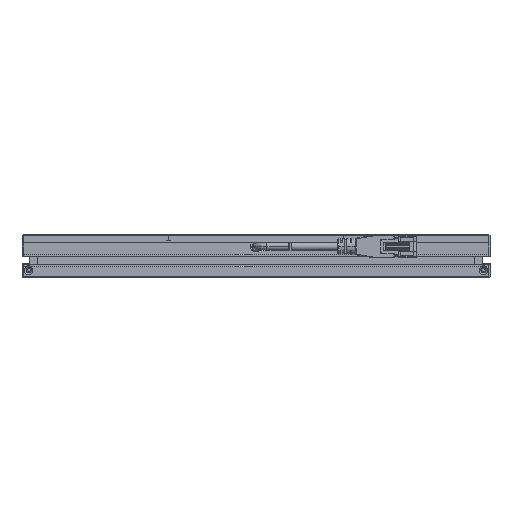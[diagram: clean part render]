
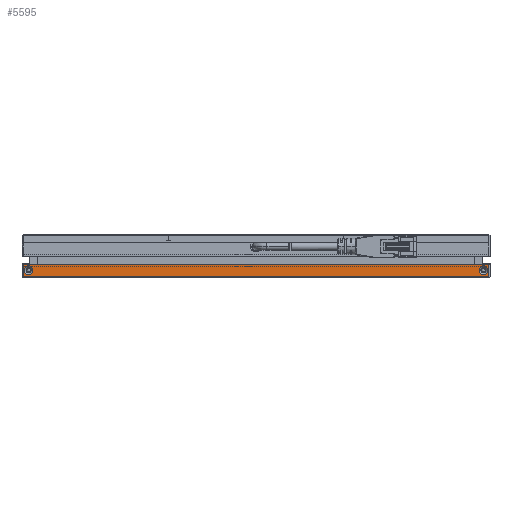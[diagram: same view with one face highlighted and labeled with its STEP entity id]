
A CAD part, left-side view. The second image highlights one B-rep face of the part: STEP entity #5595.
In plain terms, the highlighted planar face has unit normal (-1, 0, 0).
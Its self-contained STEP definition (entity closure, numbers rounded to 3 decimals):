
#243 = DIRECTION ( 'NONE',  ( 0., -1., 0. ) ) ;
#260 = CARTESIAN_POINT ( 'NONE',  ( -157., -106.5, -15.5 ) ) ;
#286 = DIRECTION ( 'NONE',  ( 0., 0., -1. ) ) ;
#462 = VERTEX_POINT ( 'NONE', #3304 ) ;
#466 = VERTEX_POINT ( 'NONE', #477 ) ;
#477 = CARTESIAN_POINT ( 'NONE',  ( -157., 106.5, -9.85 ) ) ;
#873 = ORIENTED_EDGE ( 'NONE', *, *, #5772, .T. ) ;
#894 = VECTOR ( 'NONE', #8410, 1000. ) ;
#997 = CARTESIAN_POINT ( 'NONE',  ( -157., -104., -12.5 ) ) ;
#1001 = VECTOR ( 'NONE', #243, 1000. ) ;
#1160 = CARTESIAN_POINT ( 'NONE',  ( -157., 104., -10.5 ) ) ;
#1371 = VECTOR ( 'NONE', #2449, 1000. ) ;
#1830 = VERTEX_POINT ( 'NONE', #8827 ) ;
#1846 = DIRECTION ( 'NONE',  ( 1., 0., 0. ) ) ;
#1938 = ORIENTED_EDGE ( 'NONE', *, *, #4474, .T. ) ;
#2001 = CARTESIAN_POINT ( 'NONE',  ( -157., -104., -10.5 ) ) ;
#2030 = CARTESIAN_POINT ( 'NONE',  ( -157., 104., -12.5 ) ) ;
#2423 = EDGE_CURVE ( 'NONE', #7429, #1830, #5299, .T. ) ;
#2449 = DIRECTION ( 'NONE',  ( 0., -1., 0. ) ) ;
#2542 = AXIS2_PLACEMENT_3D ( 'NONE', #997, #9767, #10649 ) ;
#2791 = LINE ( 'NONE', #5127, #4138 ) ;
#3016 = ORIENTED_EDGE ( 'NONE', *, *, #5727, .F. ) ;
#3168 = DIRECTION ( 'NONE',  ( 1., 0., 0. ) ) ;
#3304 = CARTESIAN_POINT ( 'NONE',  ( -157., 106.5, -15.5 ) ) ;
#3316 = CIRCLE ( 'NONE', #2542, 2. ) ;
#3619 = CARTESIAN_POINT ( 'NONE',  ( -157., -106.5, 0. ) ) ;
#3652 = DIRECTION ( 'NONE',  ( 0., 0., -1. ) ) ;
#4007 = LINE ( 'NONE', #6838, #1001 ) ;
#4138 = VECTOR ( 'NONE', #286, 1000. ) ;
#4367 = LINE ( 'NONE', #7156, #1371 ) ;
#4431 = CARTESIAN_POINT ( 'NONE',  ( -157., -106.5, -9.85 ) ) ;
#4474 = EDGE_CURVE ( 'NONE', #10976, #12102, #10793, .T. ) ;
#4487 = FACE_BOUND ( 'NONE', #8640, .T. ) ;
#4572 = VERTEX_POINT ( 'NONE', #260 ) ;
#4650 = CARTESIAN_POINT ( 'NONE',  ( -157., 104., -12.5 ) ) ;
#4669 = EDGE_CURVE ( 'NONE', #462, #4572, #4367, .T. ) ;
#4930 = EDGE_CURVE ( 'NONE', #12102, #10976, #3316, .T. ) ;
#5078 = FACE_OUTER_BOUND ( 'NONE', #9576, .T. ) ;
#5080 = CARTESIAN_POINT ( 'NONE',  ( -157., 107., -15.5 ) ) ;
#5127 = CARTESIAN_POINT ( 'NONE',  ( -157., 106.5, 0. ) ) ;
#5146 = CARTESIAN_POINT ( 'NONE',  ( -157., -104., -12.5 ) ) ;
#5241 = ORIENTED_EDGE ( 'NONE', *, *, #7469, .F. ) ;
#5299 = CIRCLE ( 'NONE', #11296, 2. ) ;
#5316 = DIRECTION ( 'NONE',  ( 0., 0., 1. ) ) ;
#5441 = DIRECTION ( 'NONE',  ( 1., 0., 0. ) ) ;
#5595 = ADVANCED_FACE ( 'NONE', ( #7934, #4487, #5078 ), #10002, .F. ) ;
#5727 = EDGE_CURVE ( 'NONE', #9312, #4572, #8964, .T. ) ;
#5772 = EDGE_CURVE ( 'NONE', #1830, #7429, #11342, .T. ) ;
#5863 = DIRECTION ( 'NONE',  ( 1., 0., 0. ) ) ;
#6419 = ORIENTED_EDGE ( 'NONE', *, *, #4930, .T. ) ;
#6712 = ORIENTED_EDGE ( 'NONE', *, *, #11021, .T. ) ;
#6789 = DIRECTION ( 'NONE',  ( 0., 0., -1. ) ) ;
#6832 = ORIENTED_EDGE ( 'NONE', *, *, #4669, .T. ) ;
#6838 = CARTESIAN_POINT ( 'NONE',  ( -157., 107., -9.85 ) ) ;
#7156 = CARTESIAN_POINT ( 'NONE',  ( -157., 107., -15.5 ) ) ;
#7429 = VERTEX_POINT ( 'NONE', #1160 ) ;
#7469 = EDGE_CURVE ( 'NONE', #466, #9312, #4007, .T. ) ;
#7499 = AXIS2_PLACEMENT_3D ( 'NONE', #4650, #1846, #3652 ) ;
#7825 = DIRECTION ( 'NONE',  ( 0., 0., -1. ) ) ;
#7934 = FACE_BOUND ( 'NONE', #11468, .T. ) ;
#8194 = AXIS2_PLACEMENT_3D ( 'NONE', #5146, #3168, #7825 ) ;
#8410 = DIRECTION ( 'NONE',  ( 0., 0., -1. ) ) ;
#8640 = EDGE_LOOP ( 'NONE', ( #6419, #1938 ) ) ;
#8827 = CARTESIAN_POINT ( 'NONE',  ( -157., 104., -14.5 ) ) ;
#8964 = LINE ( 'NONE', #3619, #894 ) ;
#9312 = VERTEX_POINT ( 'NONE', #4431 ) ;
#9435 = CARTESIAN_POINT ( 'NONE',  ( -157., -104., -14.5 ) ) ;
#9576 = EDGE_LOOP ( 'NONE', ( #5241, #6712, #6832, #3016 ) ) ;
#9767 = DIRECTION ( 'NONE',  ( 1., 0., 0. ) ) ;
#9917 = ORIENTED_EDGE ( 'NONE', *, *, #2423, .T. ) ;
#10002 = PLANE ( 'NONE',  #11822 ) ;
#10649 = DIRECTION ( 'NONE',  ( 0., 0., -1. ) ) ;
#10793 = CIRCLE ( 'NONE', #8194, 2. ) ;
#10976 = VERTEX_POINT ( 'NONE', #2001 ) ;
#11021 = EDGE_CURVE ( 'NONE', #466, #462, #2791, .T. ) ;
#11296 = AXIS2_PLACEMENT_3D ( 'NONE', #2030, #5863, #6789 ) ;
#11342 = CIRCLE ( 'NONE', #7499, 2. ) ;
#11468 = EDGE_LOOP ( 'NONE', ( #873, #9917 ) ) ;
#11822 = AXIS2_PLACEMENT_3D ( 'NONE', #5080, #5441, #5316 ) ;
#12102 = VERTEX_POINT ( 'NONE', #9435 ) ;
